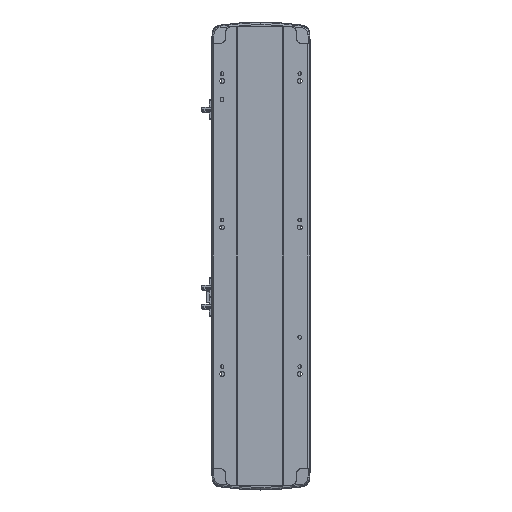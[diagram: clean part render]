
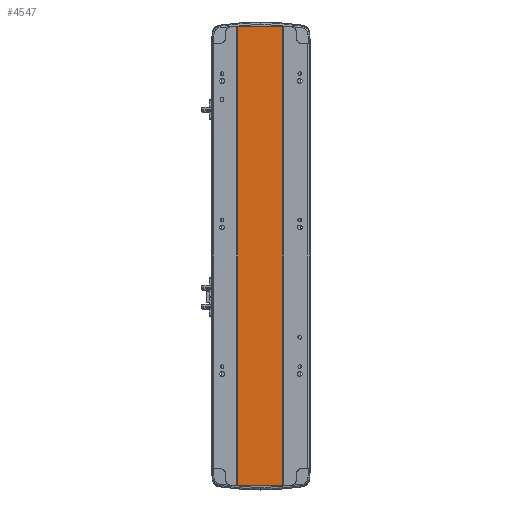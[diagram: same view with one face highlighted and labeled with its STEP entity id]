
A CAD part, front view. The second image highlights one B-rep face of the part: STEP entity #4547.
In plain terms, the highlighted planar face has unit normal (0, -1, 0).
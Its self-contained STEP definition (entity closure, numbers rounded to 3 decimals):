
#112 = VERTEX_POINT ( 'NONE', #38771 ) ;
#3529 = VECTOR ( 'NONE', #19444, 1000. ) ;
#4547 = ADVANCED_FACE ( 'NONE', ( #9276 ), #29832, .F. ) ;
#6568 = VECTOR ( 'NONE', #37234, 1000. ) ;
#8964 = CARTESIAN_POINT ( 'NONE',  ( 30., 1., 626. ) ) ;
#9276 = FACE_OUTER_BOUND ( 'NONE', #11971, .T. ) ;
#11971 = EDGE_LOOP ( 'NONE', ( #27372, #28456, #15618, #28096 ) ) ;
#12575 = LINE ( 'NONE', #37844, #6568 ) ;
#15163 = AXIS2_PLACEMENT_3D ( 'NONE', #19266, #44085, #36958 ) ;
#15618 = ORIENTED_EDGE ( 'NONE', *, *, #34681, .F. ) ;
#17129 = LINE ( 'NONE', #8964, #28647 ) ;
#18213 = EDGE_CURVE ( 'NONE', #23939, #112, #39690, .T. ) ;
#19266 = CARTESIAN_POINT ( 'NONE',  ( -32., 1., 626. ) ) ;
#19444 = DIRECTION ( 'NONE',  ( 1., 0., 0. ) ) ;
#23939 = VERTEX_POINT ( 'NONE', #24654 ) ;
#24654 = CARTESIAN_POINT ( 'NONE',  ( -32., 1., 626. ) ) ;
#27372 = ORIENTED_EDGE ( 'NONE', *, *, #29797, .T. ) ;
#28096 = ORIENTED_EDGE ( 'NONE', *, *, #18213, .T. ) ;
#28456 = ORIENTED_EDGE ( 'NONE', *, *, #32035, .F. ) ;
#28647 = VECTOR ( 'NONE', #33872, 1000. ) ;
#28819 = LINE ( 'NONE', #33288, #3529 ) ;
#29797 = EDGE_CURVE ( 'NONE', #112, #31684, #28819, .T. ) ;
#29832 = PLANE ( 'NONE',  #15163 ) ;
#31684 = VERTEX_POINT ( 'NONE', #43853 ) ;
#32035 = EDGE_CURVE ( 'NONE', #45509, #31684, #17129, .T. ) ;
#32443 = DIRECTION ( 'NONE',  ( 0., 0., -1. ) ) ;
#32919 = CARTESIAN_POINT ( 'NONE',  ( 30., 1., 626. ) ) ;
#33288 = CARTESIAN_POINT ( 'NONE',  ( -32., 1., 0. ) ) ;
#33872 = DIRECTION ( 'NONE',  ( 0., 0., -1. ) ) ;
#34681 = EDGE_CURVE ( 'NONE', #23939, #45509, #12575, .T. ) ;
#36958 = DIRECTION ( 'NONE',  ( -1., 0., 0. ) ) ;
#37234 = DIRECTION ( 'NONE',  ( 1., 0., 0. ) ) ;
#37844 = CARTESIAN_POINT ( 'NONE',  ( -32., 1., 626. ) ) ;
#38771 = CARTESIAN_POINT ( 'NONE',  ( -32., 1., 0. ) ) ;
#39402 = CARTESIAN_POINT ( 'NONE',  ( -32., 1., 626. ) ) ;
#39690 = LINE ( 'NONE', #39402, #40803 ) ;
#40803 = VECTOR ( 'NONE', #32443, 1000. ) ;
#43853 = CARTESIAN_POINT ( 'NONE',  ( 30., 1., 0. ) ) ;
#44085 = DIRECTION ( 'NONE',  ( 0., 1., 0. ) ) ;
#45509 = VERTEX_POINT ( 'NONE', #32919 ) ;
